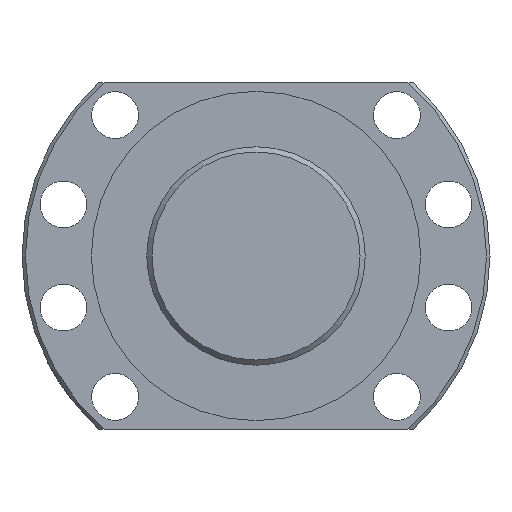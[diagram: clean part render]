
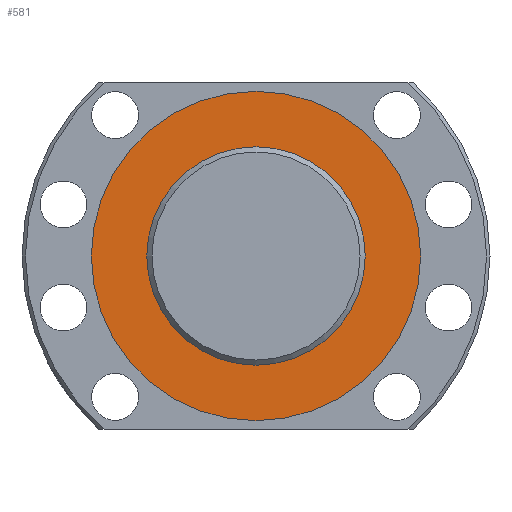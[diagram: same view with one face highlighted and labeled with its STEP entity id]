
A CAD part, left-side view. The second image highlights one B-rep face of the part: STEP entity #581.
In plain terms, the highlighted planar face has unit normal (-1, 0, 0).
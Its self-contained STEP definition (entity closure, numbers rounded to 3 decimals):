
#112=ORIENTED_EDGE('',*,*,#217,.T.);
#113=ORIENTED_EDGE('',*,*,#234,.F.);
#217=EDGE_CURVE('',#281,#281,#337,.T.);
#234=EDGE_CURVE('',#296,#296,#344,.T.);
#281=VERTEX_POINT('',#934);
#296=VERTEX_POINT('',#1003);
#337=CIRCLE('',#650,31.5);
#344=CIRCLE('',#662,47.5);
#394=EDGE_LOOP('',(#112));
#395=EDGE_LOOP('',(#113));
#484=FACE_BOUND('',#394,.T.);
#485=FACE_BOUND('',#395,.T.);
#560=PLANE('',#661);
#581=ADVANCED_FACE('',(#484,#485),#560,.T.);
#650=AXIS2_PLACEMENT_3D('',#933,#753,#754);
#661=AXIS2_PLACEMENT_3D('',#1001,#779,#780);
#662=AXIS2_PLACEMENT_3D('',#1002,#781,#782);
#753=DIRECTION('',(1.,0.,0.));
#754=DIRECTION('',(0.,0.,-1.));
#779=DIRECTION('',(-1.,0.,0.));
#780=DIRECTION('',(0.,0.,1.));
#781=DIRECTION('',(1.,0.,0.));
#782=DIRECTION('',(0.,0.,-1.));
#933=CARTESIAN_POINT('',(0.,0.,0.));
#934=CARTESIAN_POINT('',(0.,0.,-31.5));
#1001=CARTESIAN_POINT('',(0.,47.5,0.));
#1002=CARTESIAN_POINT('',(0.,0.,0.));
#1003=CARTESIAN_POINT('',(0.,0.,-47.5));
